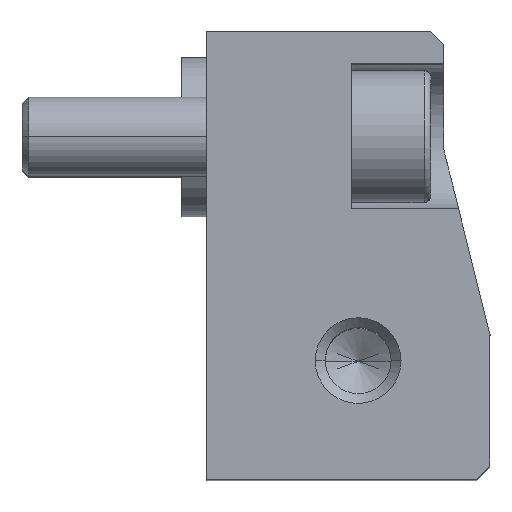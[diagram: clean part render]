
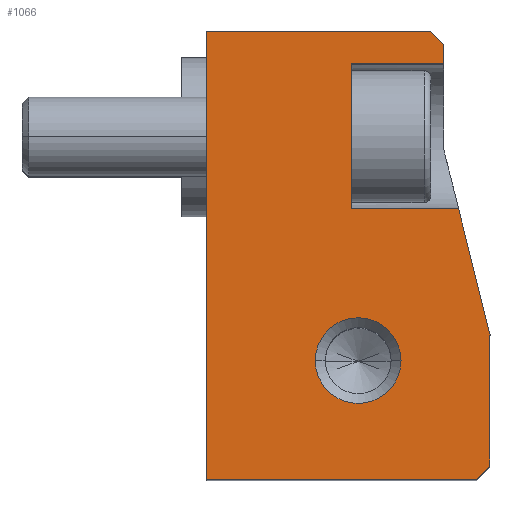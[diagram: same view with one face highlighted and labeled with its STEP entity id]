
A CAD part, top view. The second image highlights one B-rep face of the part: STEP entity #1066.
In plain terms, the highlighted planar face has unit normal (0, 0, 1).
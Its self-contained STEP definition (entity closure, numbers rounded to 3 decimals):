
#36=DIRECTION('',(0.707,-0.707,0.));
#37=VECTOR('',#36,1.414);
#38=CARTESIAN_POINT('',(5.5,25.,38.5));
#39=LINE('',#38,#37);
#40=DIRECTION('',(0.243,-0.97,0.));
#41=VECTOR('',#40,9.792);
#42=CARTESIAN_POINT('',(7.625,11.5,38.5));
#43=LINE('',#42,#41);
#44=DIRECTION('',(-0.707,-0.707,0.));
#45=VECTOR('',#44,1.414);
#46=CARTESIAN_POINT('',(10.,-8.,38.5));
#47=LINE('',#46,#45);
#48=CARTESIAN_POINT('',(0.,0.,38.5));
#49=DIRECTION('',(0.,0.,1.));
#50=DIRECTION('',(-1.,0.,0.));
#51=AXIS2_PLACEMENT_3D('',#48,#49,#50);
#53=CARTESIAN_POINT('',(0.,0.,38.5));
#54=DIRECTION('',(0.,0.,1.));
#55=DIRECTION('',(1.,0.,0.));
#56=AXIS2_PLACEMENT_3D('',#53,#54,#55);
#116=DIRECTION('',(0.,1.,0.));
#117=VECTOR('',#116,1.5);
#118=CARTESIAN_POINT('',(6.5,22.5,38.5));
#119=LINE('',#118,#117);
#215=DIRECTION('',(-1.,0.,0.));
#216=VECTOR('',#215,8.125);
#217=CARTESIAN_POINT('',(7.625,11.5,38.5));
#218=LINE('',#217,#216);
#232=DIRECTION('',(0.,1.,0.));
#233=VECTOR('',#232,11.);
#234=CARTESIAN_POINT('',(-0.5,11.5,38.5));
#235=LINE('',#234,#233);
#262=DIRECTION('',(1.,0.,0.));
#263=VECTOR('',#262,7.);
#264=CARTESIAN_POINT('',(-0.5,22.5,38.5));
#265=LINE('',#264,#263);
#286=DIRECTION('',(0.,-1.,0.));
#287=VECTOR('',#286,34.);
#288=CARTESIAN_POINT('',(-11.5,25.,38.5));
#289=LINE('',#288,#287);
#362=DIRECTION('',(-1.,0.,0.));
#363=VECTOR('',#362,17.);
#364=CARTESIAN_POINT('',(5.5,25.,38.5));
#365=LINE('',#364,#363);
#382=DIRECTION('',(1.,0.,0.));
#383=VECTOR('',#382,20.5);
#384=CARTESIAN_POINT('',(-11.5,-9.,38.5));
#385=LINE('',#384,#383);
#390=DIRECTION('',(0.,1.,0.));
#391=VECTOR('',#390,10.);
#392=CARTESIAN_POINT('',(10.,-8.,38.5));
#393=LINE('',#392,#391);
#818=CARTESIAN_POINT('',(-3.25,0.,38.5));
#819=CARTESIAN_POINT('',(3.25,0.,38.5));
#820=VERTEX_POINT('',#818);
#821=VERTEX_POINT('',#819);
#822=CARTESIAN_POINT('',(5.5,25.,38.5));
#823=CARTESIAN_POINT('',(6.5,24.,38.5));
#824=VERTEX_POINT('',#822);
#825=VERTEX_POINT('',#823);
#826=CARTESIAN_POINT('',(6.5,22.5,38.5));
#827=VERTEX_POINT('',#826);
#828=CARTESIAN_POINT('',(-0.5,22.5,38.5));
#829=VERTEX_POINT('',#828);
#830=CARTESIAN_POINT('',(-0.5,11.5,38.5));
#831=VERTEX_POINT('',#830);
#832=CARTESIAN_POINT('',(7.625,11.5,38.5));
#833=VERTEX_POINT('',#832);
#834=CARTESIAN_POINT('',(10.,2.,38.5));
#835=VERTEX_POINT('',#834);
#836=CARTESIAN_POINT('',(10.,-8.,38.5));
#837=VERTEX_POINT('',#836);
#838=CARTESIAN_POINT('',(9.,-9.,38.5));
#839=VERTEX_POINT('',#838);
#840=CARTESIAN_POINT('',(-11.5,-9.,38.5));
#841=VERTEX_POINT('',#840);
#842=CARTESIAN_POINT('',(-11.5,25.,38.5));
#843=VERTEX_POINT('',#842);
#1032=CARTESIAN_POINT('',(-0.75,8.,38.5));
#1033=DIRECTION('',(0.,0.,1.));
#1034=DIRECTION('',(1.,0.,0.));
#1035=AXIS2_PLACEMENT_3D('',#1032,#1033,#1034);
#1036=PLANE('',#1035);
#1037=ORIENTED_EDGE('',*,*,#1022,.T.);
#1039=ORIENTED_EDGE('',*,*,#1038,.F.);
#1041=ORIENTED_EDGE('',*,*,#1040,.F.);
#1043=ORIENTED_EDGE('',*,*,#1042,.F.);
#1045=ORIENTED_EDGE('',*,*,#1044,.F.);
#1047=ORIENTED_EDGE('',*,*,#1046,.T.);
#1049=ORIENTED_EDGE('',*,*,#1048,.F.);
#1051=ORIENTED_EDGE('',*,*,#1050,.T.);
#1053=ORIENTED_EDGE('',*,*,#1052,.F.);
#1055=ORIENTED_EDGE('',*,*,#1054,.F.);
#1057=ORIENTED_EDGE('',*,*,#1056,.F.);
#1058=EDGE_LOOP('',(#1037,#1039,#1041,#1043,#1045,#1047,#1049,#1051,#1053,#1055,
#1057));
#1059=FACE_OUTER_BOUND('',#1058,.F.);
#1061=ORIENTED_EDGE('',*,*,#1060,.T.);
#1063=ORIENTED_EDGE('',*,*,#1062,.T.);
#1064=EDGE_LOOP('',(#1061,#1063));
#1065=FACE_BOUND('',#1064,.F.);
#1066=ADVANCED_FACE('',(#1059,#1065),#1036,.T.);
#52=CIRCLE('',#51,3.25);
#57=CIRCLE('',#56,3.25);
#1022=EDGE_CURVE('',#824,#825,#39,.T.);
#1038=EDGE_CURVE('',#827,#825,#119,.T.);
#1040=EDGE_CURVE('',#829,#827,#265,.T.);
#1042=EDGE_CURVE('',#831,#829,#235,.T.);
#1044=EDGE_CURVE('',#833,#831,#218,.T.);
#1046=EDGE_CURVE('',#833,#835,#43,.T.);
#1048=EDGE_CURVE('',#837,#835,#393,.T.);
#1050=EDGE_CURVE('',#837,#839,#47,.T.);
#1052=EDGE_CURVE('',#841,#839,#385,.T.);
#1054=EDGE_CURVE('',#843,#841,#289,.T.);
#1056=EDGE_CURVE('',#824,#843,#365,.T.);
#1060=EDGE_CURVE('',#820,#821,#52,.T.);
#1062=EDGE_CURVE('',#821,#820,#57,.T.);
